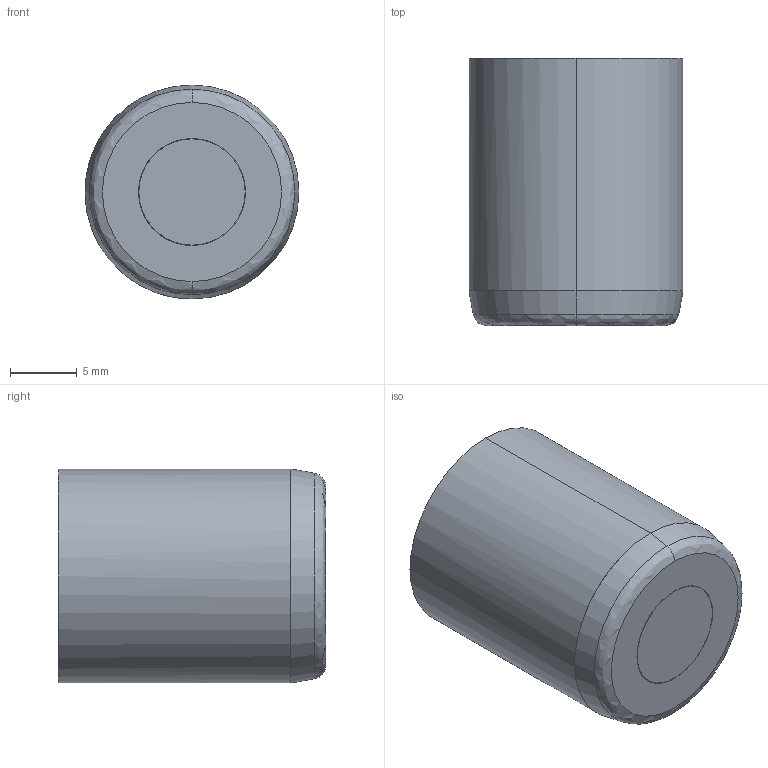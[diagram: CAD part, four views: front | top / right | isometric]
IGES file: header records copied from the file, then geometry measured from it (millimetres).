
Start section: START RECORD GO HERE.
Global section: file name: fa1687sf.igs; native system: DASSAULT SYSTEMES CATIA V5 R20 - www.3ds.com; preprocessor: CATIA Version 5 Release 20 ; author: Utente; organization: NB04-ASUS; date: 20201108.084112; units: millimetre
Bounding box: 16 x 20 x 16 mm (x, y, z)
Surface area: 2702.4 mm2 (no closed solid volume)
Topology: 0 solids, 0 shells, 402 faces, 2008 edges, 2004 vertices
Faces by surface type: revolution 199, plane 133, bspline 70
